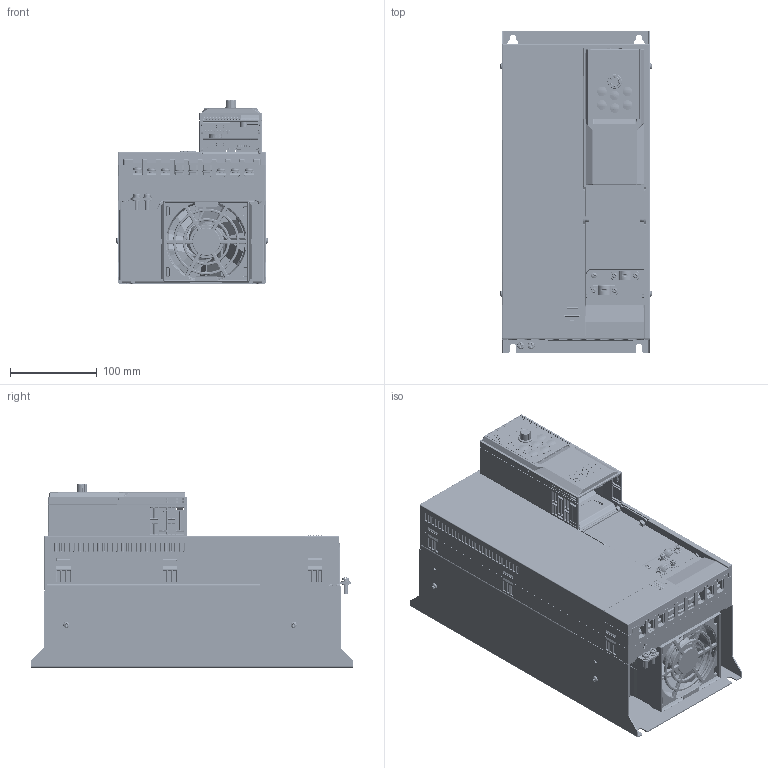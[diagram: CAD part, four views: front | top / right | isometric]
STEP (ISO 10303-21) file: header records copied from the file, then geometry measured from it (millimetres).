
FILE_DESCRIPTION((''),'2;1');
FILE_NAME('AD800P-D4-DRIVE_ASM','2025-06-24T16:43:25',('wendong.luo'),(''),'CREO PARAMETRIC BY PTC INC, 2024374','CREO PARAMETRIC BY PTC INC, 2024374','');
FILE_SCHEMA(('CONFIG_CONTROL_DESIGN','GEOMETRIC_VALIDATION_PROPERTIES_MIM'));
Products named in the file (43): D4-MECHANICAL-PART; M0100011; M0100015; M0203012; E0400030; M0202007; M0202003; M0202000; M0104022; M0104021; FAN9238; FAN-ASM-9238_ASM; E0400047; D4-PU_ASM; M0104151; E0100736; E0400142; E0400150; E0400073; E0400023; E0100738_ASM; E0200416; M0104143; E0100735; E0400035; E0400118; E0400011; E0100737_ASM; M0104016; M0104018; E0100102; E0200191; E0200192; E0100102_ASM; M0104017; M0203163; EXTERNAL_KEYPAD_ASM; M0203158; M0203159; M0104150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
Assembly tree (55 placements, depth 5):
  AD800P-D4-DRIVE_ASM
    D4-PU_ASM
      D4-MECHANICAL-PART
      M0100011
      M0100015  x2
      M0203012
      E0400030
      M0202007  x2
      M0202003  x4
      M0202000  x5
      M0104022
      FAN-ASM-9238_ASM
        M0104021
        FAN9238
      E0400047
    CU0P-ASSY_ASM
      M0104151
      E0100738_ASM
        E0100736
        E0400142
        E0400150
        E0400073  x2
        E0400023
      E0200416
      M0104143
      E0100737_ASM
        E0100735
        E0400035
        E0400118
        E0400023
        E0400011
      EXTERNAL_KEYPAD_ASM
        M0104016
        M0104018
        E0100102_ASM
          E0100102
          E0200191
          E0200192
          E0400035
          E0400011
        M0104017
        M0203163
      M0203158
      M0203159
      M0104150
      M0203053
Bounding box: 175.03 x 370 x 211.3 mm (x, y, z)
Volume: 7076557.6 mm3; surface area: 931685.5 mm2
Topology: 88 solids, 155 shells, 21067 faces, 55905 edges, 35952 vertices
Faces by surface type: plane 11234, cylinder 4839, bspline 1984, extrusion 1860, cone 733, torus 270, sphere 147
Entity records: 869221 total; most frequent: CARTESIAN_POINT 241473, ORIENTED_EDGE 98546, DIRECTION 79887, PRESENTATION_STYLE_ASSIGNMENT 50039, EDGE_CURVE 49439, STYLED_ITEM 47859, CURVE_STYLE 43744, VECTOR 33249
